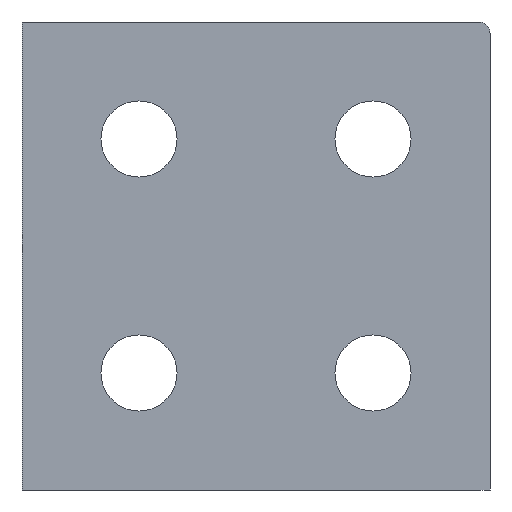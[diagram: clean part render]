
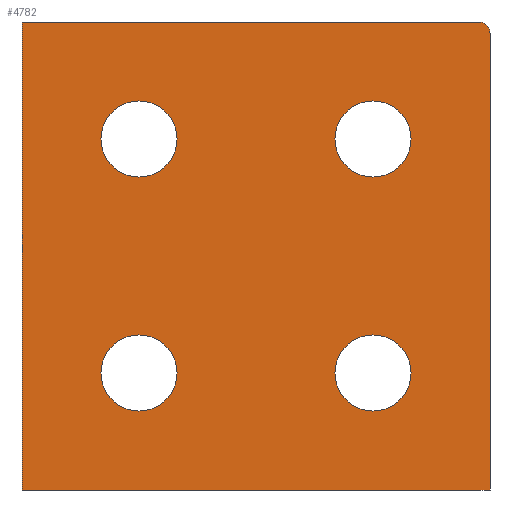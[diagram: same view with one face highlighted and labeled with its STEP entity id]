
A CAD part, left-side view. The second image highlights one B-rep face of the part: STEP entity #4782.
In plain terms, the highlighted planar face has unit normal (-1, 0, 0).
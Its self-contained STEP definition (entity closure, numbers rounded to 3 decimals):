
#33 = EDGE_CURVE ( 'NONE', #2601, #3375, #4729, .T. ) ;
#48 = LINE ( 'NONE', #4943, #1726 ) ;
#165 = PLANE ( 'NONE',  #1876 ) ;
#195 = AXIS2_PLACEMENT_3D ( 'NONE', #3819, #1848, #1510 ) ;
#263 = DIRECTION ( 'NONE',  ( 1., 0., 0. ) ) ;
#432 = CIRCLE ( 'NONE', #195, 1. ) ;
#497 = EDGE_CURVE ( 'NONE', #1870, #4120, #4621, .T. ) ;
#611 = EDGE_LOOP ( 'NONE', ( #1914, #1338 ) ) ;
#690 = EDGE_CURVE ( 'NONE', #3375, #2601, #2934, .T. ) ;
#699 = CARTESIAN_POINT ( 'NONE',  ( 0., 40., 40. ) ) ;
#760 = VERTEX_POINT ( 'NONE', #4006 ) ;
#765 = EDGE_CURVE ( 'NONE', #760, #3974, #1113, .T. ) ;
#802 = EDGE_CURVE ( 'NONE', #4479, #2071, #1121, .T. ) ;
#965 = CARTESIAN_POINT ( 'NONE',  ( 0., 30., 33.25 ) ) ;
#1053 = CIRCLE ( 'NONE', #3847, 3.25 ) ;
#1060 = CARTESIAN_POINT ( 'NONE',  ( 0., 10., 13.25 ) ) ;
#1113 = CIRCLE ( 'NONE', #1708, 3.25 ) ;
#1121 = CIRCLE ( 'NONE', #4938, 3.25 ) ;
#1143 = EDGE_LOOP ( 'NONE', ( #3363, #1308, #1369, #1828, #1879 ) ) ;
#1199 = VERTEX_POINT ( 'NONE', #3967 ) ;
#1236 = LINE ( 'NONE', #1514, #4711 ) ;
#1237 = ORIENTED_EDGE ( 'NONE', *, *, #802, .T. ) ;
#1308 = ORIENTED_EDGE ( 'NONE', *, *, #1856, .T. ) ;
#1338 = ORIENTED_EDGE ( 'NONE', *, *, #765, .T. ) ;
#1340 = DIRECTION ( 'NONE',  ( 1., 0., 0. ) ) ;
#1357 = EDGE_CURVE ( 'NONE', #2098, #4349, #48, .T. ) ;
#1369 = ORIENTED_EDGE ( 'NONE', *, *, #3570, .F. ) ;
#1437 = DIRECTION ( 'NONE',  ( 0., 0., -1. ) ) ;
#1469 = DIRECTION ( 'NONE',  ( 0., 0., -1. ) ) ;
#1510 = DIRECTION ( 'NONE',  ( 0., 0., -1. ) ) ;
#1514 = CARTESIAN_POINT ( 'NONE',  ( 0., 0., 0. ) ) ;
#1558 = VECTOR ( 'NONE', #3857, 1000. ) ;
#1613 = CARTESIAN_POINT ( 'NONE',  ( 0., 30., 26.75 ) ) ;
#1639 = LINE ( 'NONE', #2973, #1558 ) ;
#1645 = CARTESIAN_POINT ( 'NONE',  ( 0., 0., 39. ) ) ;
#1688 = CARTESIAN_POINT ( 'NONE',  ( 0., 10., 30. ) ) ;
#1708 = AXIS2_PLACEMENT_3D ( 'NONE', #1883, #3502, #2768 ) ;
#1726 = VECTOR ( 'NONE', #4061, 1000. ) ;
#1828 = ORIENTED_EDGE ( 'NONE', *, *, #497, .T. ) ;
#1848 = DIRECTION ( 'NONE',  ( -1., 0., 0. ) ) ;
#1852 = EDGE_LOOP ( 'NONE', ( #3163, #1237 ) ) ;
#1856 = EDGE_CURVE ( 'NONE', #2098, #3751, #432, .T. ) ;
#1870 = VERTEX_POINT ( 'NONE', #699 ) ;
#1876 = AXIS2_PLACEMENT_3D ( 'NONE', #3154, #2735, #1437 ) ;
#1879 = ORIENTED_EDGE ( 'NONE', *, *, #3135, .T. ) ;
#1883 = CARTESIAN_POINT ( 'NONE',  ( 0., 10., 30. ) ) ;
#1889 = DIRECTION ( 'NONE',  ( 0., -1., 0. ) ) ;
#1914 = ORIENTED_EDGE ( 'NONE', *, *, #2380, .T. ) ;
#1959 = ORIENTED_EDGE ( 'NONE', *, *, #3235, .T. ) ;
#2071 = VERTEX_POINT ( 'NONE', #4116 ) ;
#2098 = VERTEX_POINT ( 'NONE', #1645 ) ;
#2139 = CARTESIAN_POINT ( 'NONE',  ( 0., 30., 10. ) ) ;
#2277 = CARTESIAN_POINT ( 'NONE',  ( 0., 10., 10. ) ) ;
#2300 = FACE_BOUND ( 'NONE', #4132, .T. ) ;
#2380 = EDGE_CURVE ( 'NONE', #3974, #760, #4123, .T. ) ;
#2385 = FACE_OUTER_BOUND ( 'NONE', #1143, .T. ) ;
#2404 = FACE_BOUND ( 'NONE', #2791, .T. ) ;
#2415 = DIRECTION ( 'NONE',  ( 1., 0., 0. ) ) ;
#2480 = CIRCLE ( 'NONE', #5079, 3.25 ) ;
#2550 = DIRECTION ( 'NONE',  ( 1., 0., 0. ) ) ;
#2601 = VERTEX_POINT ( 'NONE', #965 ) ;
#2609 = AXIS2_PLACEMENT_3D ( 'NONE', #3582, #263, #2744 ) ;
#2649 = CARTESIAN_POINT ( 'NONE',  ( 0., 10., 26.75 ) ) ;
#2684 = CARTESIAN_POINT ( 'NONE',  ( 0., 30., 30. ) ) ;
#2707 = CARTESIAN_POINT ( 'NONE',  ( 0., 40., 40. ) ) ;
#2735 = DIRECTION ( 'NONE',  ( 1., 0., 0. ) ) ;
#2744 = DIRECTION ( 'NONE',  ( 0., 0., -1. ) ) ;
#2768 = DIRECTION ( 'NONE',  ( 0., 0., -1. ) ) ;
#2791 = EDGE_LOOP ( 'NONE', ( #3750, #3140 ) ) ;
#2813 = VECTOR ( 'NONE', #1469, 1000. ) ;
#2830 = DIRECTION ( 'NONE',  ( 1., 0., 0. ) ) ;
#2883 = EDGE_CURVE ( 'NONE', #3825, #1199, #1053, .T. ) ;
#2923 = ORIENTED_EDGE ( 'NONE', *, *, #2883, .T. ) ;
#2934 = CIRCLE ( 'NONE', #3085, 3.25 ) ;
#2973 = CARTESIAN_POINT ( 'NONE',  ( 0., 0., 40. ) ) ;
#3009 = DIRECTION ( 'NONE',  ( 0., 0., -1. ) ) ;
#3085 = AXIS2_PLACEMENT_3D ( 'NONE', #2684, #1340, #4281 ) ;
#3135 = EDGE_CURVE ( 'NONE', #4120, #4349, #1236, .T. ) ;
#3140 = ORIENTED_EDGE ( 'NONE', *, *, #33, .T. ) ;
#3154 = CARTESIAN_POINT ( 'NONE',  ( 0., 0., 40. ) ) ;
#3163 = ORIENTED_EDGE ( 'NONE', *, *, #4258, .T. ) ;
#3235 = EDGE_CURVE ( 'NONE', #1199, #3825, #4810, .T. ) ;
#3363 = ORIENTED_EDGE ( 'NONE', *, *, #1357, .F. ) ;
#3374 = CARTESIAN_POINT ( 'NONE',  ( 0., 10., 10. ) ) ;
#3375 = VERTEX_POINT ( 'NONE', #1613 ) ;
#3381 = CARTESIAN_POINT ( 'NONE',  ( 0., 0., 0. ) ) ;
#3502 = DIRECTION ( 'NONE',  ( 1., 0., 0. ) ) ;
#3555 = DIRECTION ( 'NONE',  ( 0., 0., -1. ) ) ;
#3570 = EDGE_CURVE ( 'NONE', #1870, #3751, #1639, .T. ) ;
#3582 = CARTESIAN_POINT ( 'NONE',  ( 0., 30., 10. ) ) ;
#3750 = ORIENTED_EDGE ( 'NONE', *, *, #690, .T. ) ;
#3751 = VERTEX_POINT ( 'NONE', #5161 ) ;
#3819 = CARTESIAN_POINT ( 'NONE',  ( 0., 1., 39. ) ) ;
#3824 = AXIS2_PLACEMENT_3D ( 'NONE', #4764, #5096, #4997 ) ;
#3825 = VERTEX_POINT ( 'NONE', #4087 ) ;
#3847 = AXIS2_PLACEMENT_3D ( 'NONE', #2139, #2550, #3009 ) ;
#3857 = DIRECTION ( 'NONE',  ( 0., -1., 0. ) ) ;
#3967 = CARTESIAN_POINT ( 'NONE',  ( 0., 30., 13.25 ) ) ;
#3974 = VERTEX_POINT ( 'NONE', #2649 ) ;
#4006 = CARTESIAN_POINT ( 'NONE',  ( 0., 10., 33.25 ) ) ;
#4017 = AXIS2_PLACEMENT_3D ( 'NONE', #1688, #4241, #4716 ) ;
#4054 = DIRECTION ( 'NONE',  ( 0., 0., -1. ) ) ;
#4061 = DIRECTION ( 'NONE',  ( 0., 0., -1. ) ) ;
#4087 = CARTESIAN_POINT ( 'NONE',  ( 0., 30., 6.75 ) ) ;
#4116 = CARTESIAN_POINT ( 'NONE',  ( 0., 10., 6.75 ) ) ;
#4120 = VERTEX_POINT ( 'NONE', #4487 ) ;
#4123 = CIRCLE ( 'NONE', #4017, 3.25 ) ;
#4132 = EDGE_LOOP ( 'NONE', ( #2923, #1959 ) ) ;
#4153 = FACE_BOUND ( 'NONE', #1852, .T. ) ;
#4203 = FACE_BOUND ( 'NONE', #611, .T. ) ;
#4241 = DIRECTION ( 'NONE',  ( 1., 0., 0. ) ) ;
#4258 = EDGE_CURVE ( 'NONE', #2071, #4479, #2480, .T. ) ;
#4281 = DIRECTION ( 'NONE',  ( 0., 0., -1. ) ) ;
#4349 = VERTEX_POINT ( 'NONE', #3381 ) ;
#4479 = VERTEX_POINT ( 'NONE', #1060 ) ;
#4487 = CARTESIAN_POINT ( 'NONE',  ( 0., 40., 0. ) ) ;
#4621 = LINE ( 'NONE', #2707, #2813 ) ;
#4711 = VECTOR ( 'NONE', #1889, 1000. ) ;
#4716 = DIRECTION ( 'NONE',  ( 0., 0., -1. ) ) ;
#4729 = CIRCLE ( 'NONE', #3824, 3.25 ) ;
#4764 = CARTESIAN_POINT ( 'NONE',  ( 0., 30., 30. ) ) ;
#4782 = ADVANCED_FACE ( 'NONE', ( #2404, #2300, #4153, #4203, #2385 ), #165, .F. ) ;
#4810 = CIRCLE ( 'NONE', #2609, 3.25 ) ;
#4938 = AXIS2_PLACEMENT_3D ( 'NONE', #2277, #2415, #4054 ) ;
#4943 = CARTESIAN_POINT ( 'NONE',  ( 0., 0., 40. ) ) ;
#4997 = DIRECTION ( 'NONE',  ( 0., 0., -1. ) ) ;
#5079 = AXIS2_PLACEMENT_3D ( 'NONE', #3374, #2830, #3555 ) ;
#5096 = DIRECTION ( 'NONE',  ( 1., 0., 0. ) ) ;
#5161 = CARTESIAN_POINT ( 'NONE',  ( 0., 1., 40. ) ) ;
